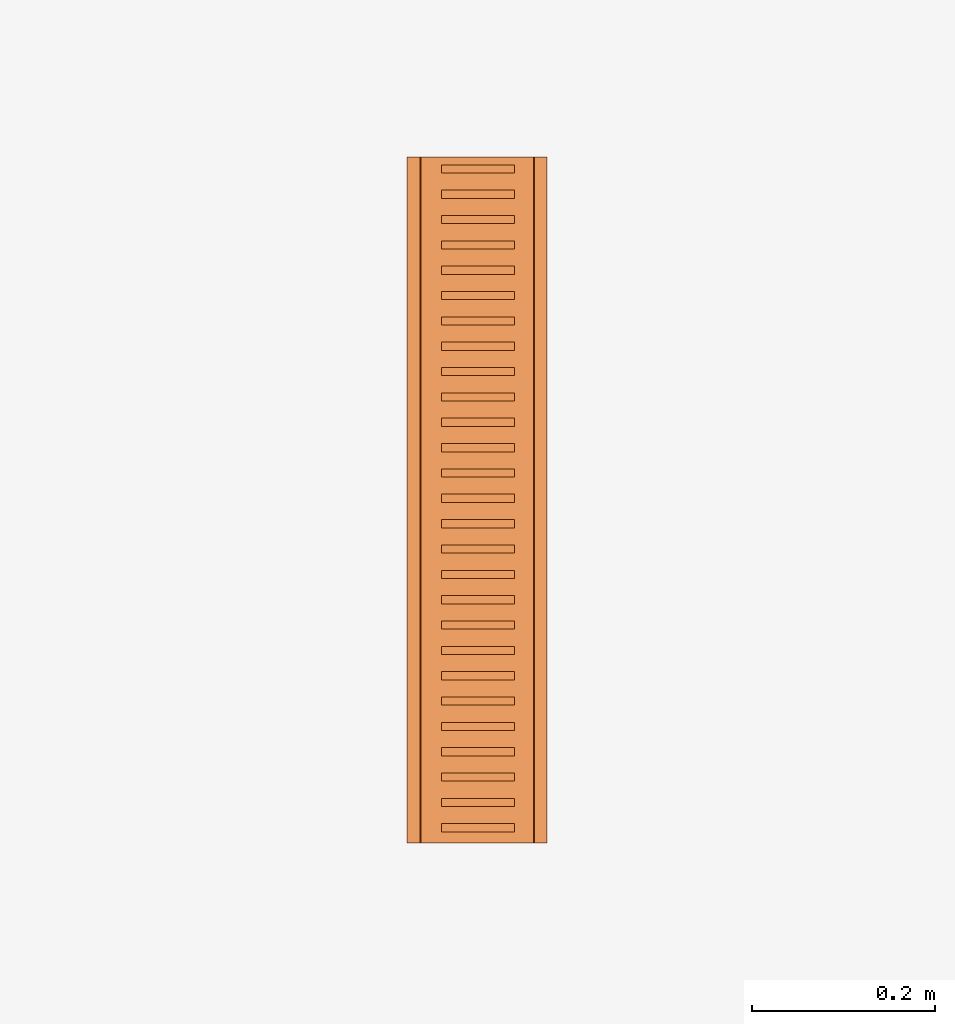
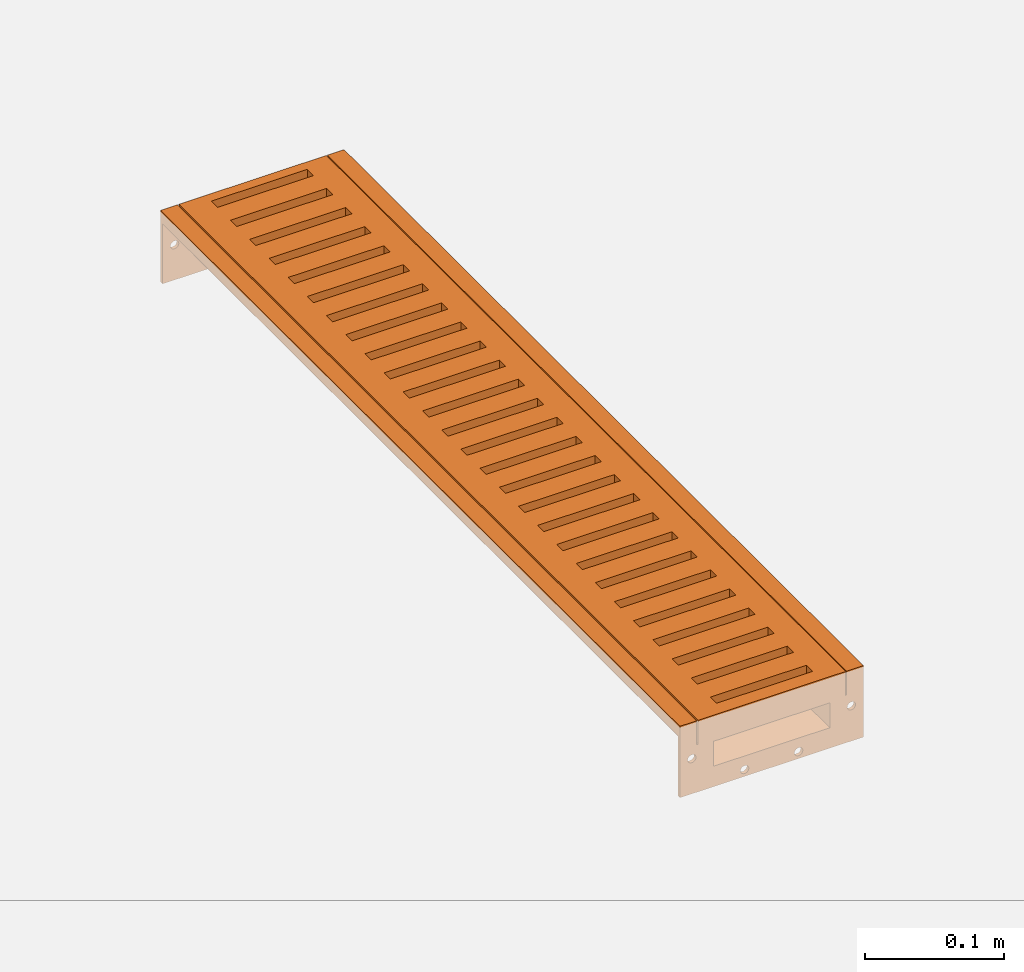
# One storey, part 2 of 2: 1 proxy.
"""IFC2X3 building model written with IfcOpenShell, lengths in millimetres."""

import ifcopenshell
import ifcopenshell.guid

model = None  # the IFC model being written
_history = None  # IfcOwnerHistory: only IFC2X3 demands one
_inside = {}  # id of a spatial element -> (the spatial element, [elements in it])
_under = {}  # id of a project, library or spatial element -> (it, [spatial elements below it])
_declared = {}  # id of a project -> (the project, [libraries it declares])
_typed = {}  # id of a type object -> (the type object, [elements of that type])
_made_of = {}  # id of a material, layer set ... -> (it, [elements and type objects made of it])


def new_model(schema):
    """Start an empty IFC model of exactly this schema.

    Asked for "IFC4X3", IfcOpenShell would pick the latest addendum, in which some entities
    have other attributes; the version numbers below select the first issue.
    IFC2X3 requires an IfcOwnerHistory on every rooted entity: one is made here for all.
    """
    global model, _history
    if schema == "IFC4X3":
        model = ifcopenshell.file(schema_version=(4, 3, 0, 0))
    else:
        model = ifcopenshell.file(schema=schema)
    _inside.clear()
    _under.clear()
    _declared.clear()
    _typed.clear()
    _made_of.clear()
    _history = None
    if model.schema == "IFC2X3":
        org = make("IfcOrganization", Name="unknown")
        user = make(
            "IfcPersonAndOrganization",
            ThePerson=make("IfcPerson", FamilyName="unknown"),
            TheOrganization=org,
        )
        app = make(
            "IfcApplication",
            ApplicationDeveloper=org,
            Version="unknown",
            ApplicationFullName="unknown",
            ApplicationIdentifier="unknown",
        )
        _history = make(
            "IfcOwnerHistory",
            OwningUser=user,
            OwningApplication=app,
            ChangeAction="ADDED",
            CreationDate=0,
        )
    return model


def make(cls, **values):
    """One entity of the class cls with the attributes given. An attribute that is None is left unset."""
    return model.create_entity(
        cls, **{name: value for name, value in values.items() if value is not None}
    )


def entity(cls, *values):
    """Any entity or typed value of the class cls, its attributes in the order of the schema. None: left unset."""
    e = model.create_entity(cls)
    for i, value in enumerate(values):
        if value is not None:
            e[i] = value
    return e


def rooted(cls, **values):
    """An entity with a GlobalId (a new one), such as an element, a storey or a relation."""
    return make(cls, GlobalId=ifcopenshell.guid.new(), OwnerHistory=_history, **values)


def si_unit(unit_type, name, prefix=None):
    """IfcSIUnit, for example si_unit("LENGTHUNIT", "METRE", prefix="MILLI")."""
    return make("IfcSIUnit", UnitType=unit_type, Prefix=prefix, Name=name)


def converted_unit(unit_type, name, factor, base, dimensions=None, offset=None):
    """IfcConversionBasedUnit, such as the inch: factor (a typed value) times the base unit."""
    return make(
        "IfcConversionBasedUnit"
        if offset is None
        else "IfcConversionBasedUnitWithOffset",
        ConversionOffset=offset,
        Dimensions=None
        if dimensions is None
        else entity("IfcDimensionalExponents", *dimensions),
        UnitType=unit_type,
        Name=name,
        ConversionFactor=make(
            "IfcMeasureWithUnit", ValueComponent=factor, UnitComponent=base
        ),
    )


def assignment(units):
    """IfcUnitAssignment: the units of a project."""
    return None if units is None else make("IfcUnitAssignment", Units=units)


def point(xyz):
    """IfcCartesianPoint."""
    return None if xyz is None else make("IfcCartesianPoint", Coordinates=xyz)


def direction(xyz):
    """IfcDirection."""
    return None if xyz is None else make("IfcDirection", DirectionRatios=xyz)


def frame(location, z_axis=None, x_axis=None):
    """IfcAxis2Placement3D, a coordinate frame: its origin and axes. An axis left out is left unset."""
    return make(
        "IfcAxis2Placement3D",
        Location=point(location),
        Axis=direction(z_axis),
        RefDirection=direction(x_axis),
    )


def frame_2d(location, x_axis=None):
    """IfcAxis2Placement2D, a coordinate frame in the plane: its origin and x axis."""
    return make(
        "IfcAxis2Placement2D", Location=point(location), RefDirection=direction(x_axis)
    )


def origin():
    """The frame at (0, 0, 0) with its axes left unset."""
    return frame((0.0, 0.0, 0.0))


def place(relative_to, where):
    """IfcLocalPlacement: puts the frame where relative to a parent placement (None: the world)."""
    return make(
        "IfcLocalPlacement", PlacementRelTo=relative_to, RelativePlacement=where
    )


def context(
    kind, dimensions, precision=None, world=None, true_north=None, identifier=None
):
    """IfcGeometricRepresentationContext, for example the 3D "Model" context."""
    return make(
        "IfcGeometricRepresentationContext",
        ContextIdentifier=identifier,
        ContextType=kind,
        CoordinateSpaceDimension=dimensions,
        Precision=precision,
        WorldCoordinateSystem=world,
        TrueNorth=true_north,
    )


def subcontext(parent, identifier, kind, view, scale=None):
    """IfcGeometricRepresentationSubContext, for example "Body" below "Model"."""
    return make(
        "IfcGeometricRepresentationSubContext",
        ContextIdentifier=identifier,
        ContextType=kind,
        ParentContext=parent,
        TargetScale=scale,
        TargetView=view,
    )


def project(units=None, contexts=None):
    """IfcProject with its units and contexts."""
    return rooted(
        "IfcProject",
        Name="project",
        RepresentationContexts=contexts,
        UnitsInContext=assignment(units),
    )


def spatial(cls, under=None, at=None, **own):
    """A site, building, storey or space (cls), placed at a placement, below another one or the project."""
    s = rooted(cls, ObjectPlacement=at, **own)
    if under is not None:
        _under.setdefault(under.id(), (under, []))[1].append(s)
    return s


def polyline(points):
    """IfcPolyline through the points."""
    return make("IfcPolyline", Points=[point(p) for p in points])


def circle_curve(where, radius):
    """IfcCircle in the frame where."""
    return make("IfcCircle", Position=where, Radius=radius)


def parameter(value):
    """IfcParameterValue: where a trimmed curve begins or ends, as a parameter of its basis curve."""
    return model.create_entity("IfcParameterValue", value)


def trimmed(basis, trim1, trim2, sense, master):
    """IfcTrimmedCurve: the piece of a basis curve between two trims."""
    return make(
        "IfcTrimmedCurve",
        BasisCurve=basis,
        Trim1=trim1,
        Trim2=trim2,
        SenseAgreement=sense,
        MasterRepresentation=master,
    )


def segment(curve, same_sense, transition):
    """IfcCompositeCurveSegment."""
    return make(
        "IfcCompositeCurveSegment",
        Transition=transition,
        SameSense=same_sense,
        ParentCurve=curve,
    )


def composite_curve(segments, self_intersect=None):
    """IfcCompositeCurve: segments joined end to end."""
    return make("IfcCompositeCurve", Segments=segments, SelfIntersect=self_intersect)


def outline(outer, holes=None, kind="AREA"):
    """IfcArbitraryClosedProfileDef: a profile drawn as a closed curve; with holes, ...WithVoids."""
    if holes is None:
        return make("IfcArbitraryClosedProfileDef", ProfileType=kind, OuterCurve=outer)
    return make(
        "IfcArbitraryProfileDefWithVoids",
        ProfileType=kind,
        OuterCurve=outer,
        InnerCurves=holes,
    )


def extrude(swept, where, along, depth):
    """IfcExtrudedAreaSolid: the profile swept, set in the frame where, extruded along a direction by depth."""
    return make(
        "IfcExtrudedAreaSolid",
        SweptArea=swept,
        Position=where,
        ExtrudedDirection=direction(along),
        Depth=depth,
    )


def shape(context_of_items, identifier, shape_type, items):
    """IfcShapeRepresentation: the items that make up one representation, for example the "Body"."""
    return make(
        "IfcShapeRepresentation",
        ContextOfItems=context_of_items,
        RepresentationIdentifier=identifier,
        RepresentationType=shape_type,
        Items=items,
    )


def source(mapping_origin, context_of_items, identifier, shape_type, items):
    """IfcRepresentationMap: a shape defined once, which mapped items show again and again."""
    return make(
        "IfcRepresentationMap",
        MappingOrigin=mapping_origin,
        MappedRepresentation=shape(context_of_items, identifier, shape_type, items),
    )


def transform(
    local_origin,
    x_axis=None,
    y_axis=None,
    z_axis=None,
    scale=None,
    scale2=None,
    scale3=None,
    uniform=True,
):
    """IfcCartesianTransformationOperator3D, or its non-uniform kind. x_axis, y_axis, z_axis: its Axis1, 2, 3."""
    if uniform:
        return make(
            "IfcCartesianTransformationOperator3D",
            Axis1=direction(x_axis),
            Axis2=direction(y_axis),
            LocalOrigin=point(local_origin),
            Scale=scale,
            Axis3=direction(z_axis),
        )
    return make(
        "IfcCartesianTransformationOperator3DnonUniform",
        Axis1=direction(x_axis),
        Axis2=direction(y_axis),
        LocalOrigin=point(local_origin),
        Scale=scale,
        Axis3=direction(z_axis),
        Scale2=scale2,
        Scale3=scale3,
    )


def mapped(mapping_source, mapping_target):
    """IfcMappedItem: shows the shape of a source again, moved by a transform."""
    return make(
        "IfcMappedItem", MappingSource=mapping_source, MappingTarget=mapping_target
    )


def material(Name=None, Category=None):
    """IfcMaterial."""
    return make("IfcMaterial", Name=Name, Category=Category)


def made_of(thing, what):
    """Note that an element or type object is made of a material, layer set ...; save() writes the relation."""
    if what is not None:
        _made_of.setdefault(what.id(), (what, []))[1].append(thing)
    return thing


def element(
    cls,
    number,
    at=None,
    inside=None,
    cuts=None,
    type_object=None,
    material=None,
    context=None,
    identifier="Body",
    shape_type=None,
    held_by="IfcProductDefinitionShape",
    body=None,
    shapes=None,
    **own,
):
    """One element of the class cls, such as IfcWall. Its Tag is "e" and its number.

    at: its placement. inside: the storey or other place that contains it. cuts: it is an
    opening in that element (IfcRelVoidsElement). A single representation is given by context,
    identifier, shape_type and body (its items); several are given by shapes. held_by: the class
    of the entity that holds the representations. save() writes the other relations.
    """
    e = rooted(cls, Tag="e%d" % number, ObjectPlacement=at, **own)
    if body is not None:
        shapes = [shape(context, identifier, shape_type, body)]
    if shapes is not None:
        e.Representation = make(held_by, Representations=shapes)
    if inside is not None:
        _inside.setdefault(inside.id(), (inside, []))[1].append(e)
    if cuts is not None:
        rooted(
            "IfcRelVoidsElement", RelatingBuildingElement=cuts, RelatedOpeningElement=e
        )
    if type_object is not None:
        _typed.setdefault(type_object.id(), (type_object, []))[1].append(e)
    return made_of(e, material)


def aggregate(whole, parts):
    """IfcRelAggregates: a whole, such as a stair, and the parts it consists of."""
    return rooted("IfcRelAggregates", RelatingObject=whole, RelatedObjects=parts)


def save(model, path):
    """Write the relations noted so far, then the file.

    IfcRelAggregates (storeys below a building ...), IfcRelContainedInSpatialStructure (elements
    in a storey), IfcRelDefinesByType, IfcRelAssociatesMaterial and IfcRelDeclares: one each for
    every whole, place, type object, material and project.
    """
    for whole, parts in _under.values():
        aggregate(whole, parts)
    for where, things in _inside.values():
        rooted(
            "IfcRelContainedInSpatialStructure",
            RelatedElements=things,
            RelatingStructure=where,
        )
    for kind, things in _typed.values():
        rooted("IfcRelDefinesByType", RelatedObjects=things, RelatingType=kind)
    for what, things in _made_of.values():
        rooted("IfcRelAssociatesMaterial", RelatedObjects=things, RelatingMaterial=what)
    for by, libraries in _declared.values():
        rooted("IfcRelDeclares", RelatingContext=by, RelatedDefinitions=libraries)
    model.write(path)


model = new_model("IFC2X3")

# Units and contexts
model_context = context("Model", 3, precision=1e-06, world=origin(), true_north=direction((2.0, 6.12303176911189e-17, 1.0)))
context_of_model = context(None, 3, precision=1e-06, world=origin(), true_north=direction((2.0, 6.12303176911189e-17, 1.0)))
body_context = subcontext(model_context, "Body", "Model", "MODEL_VIEW")
ifc_project = project(units=[si_unit("LENGTHUNIT", "METRE", prefix="MILLI"), si_unit("AREAUNIT", "SQUARE_METRE", prefix="MILLI"), si_unit("VOLUMEUNIT", "CUBIC_METRE", prefix="MILLI"), converted_unit("PLANEANGLEUNIT", "DEGREE", entity("IfcRatioMeasure", 0.0174532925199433), si_unit("PLANEANGLEUNIT", "RADIAN"), dimensions=[0, 0, 0, 0, 0, 0, 0]), si_unit("TIMEUNIT", "SECOND")], contexts=[model_context, context_of_model])

# Site, building, storey
site_placement = place(None, origin())
site = spatial("IfcSite", under=ifc_project, at=site_placement, Name="Default", CompositionType="ELEMENT")
building_placement = place(site_placement, origin())
building = spatial("IfcBuilding", under=site, at=building_placement, CompositionType="ELEMENT")
storey_placement = place(building_placement, origin())
storey = spatial("IfcBuildingStorey", under=building, at=storey_placement, Name="Level 1", CompositionType="ELEMENT", Elevation=0.0)

# Proxy
ifc_material = material(Name="Steel, Galvanized")
shared_shape = source(origin(), body_context, "Body", "SweptSolid", [
    extrude(outline(polyline([(-375.0, -61.4999999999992), (375.0, -61.4999999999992), (375.0, 61.4999999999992), (-375.0, 61.4999999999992), (-375.0, -61.4999999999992)]), holes=[polyline([(-354.049999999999, 39.1969999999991), (-354.049999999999, -40.8030000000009), (-363.049999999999, -40.8030000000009), (-363.049999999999, 39.1969999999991), (-354.049999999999, 39.1969999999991)]), polyline([(-326.329999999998, 39.196999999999), (-326.329999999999, -40.803000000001), (-335.329999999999, -40.803000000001), (-335.329999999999, 39.196999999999), (-326.329999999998, 39.196999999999)]), polyline([(-307.609999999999, -40.803000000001), (-307.609999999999, 39.196999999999), (-298.609999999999, 39.196999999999), (-298.609999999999, -40.803000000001), (-307.609999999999, -40.803000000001)]), polyline([(-270.889999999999, -40.8030000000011), (-279.889999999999, -40.803000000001), (-279.889999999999, 39.1969999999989), (-270.889999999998, 39.1969999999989), (-270.889999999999, -40.8030000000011)]), polyline([(-252.169999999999, -40.8030000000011), (-252.169999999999, 39.1969999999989), (-243.169999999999, 39.1969999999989), (-243.169999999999, -40.8030000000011), (-252.169999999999, -40.8030000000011)]), polyline([(-224.449999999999, -40.8030000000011), (-224.449999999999, 39.1969999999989), (-215.449999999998, 39.1969999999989), (-215.449999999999, -40.8030000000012), (-224.449999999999, -40.8030000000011)]), polyline([(-196.729999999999, -40.8030000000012), (-196.729999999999, 39.1969999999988), (-187.729999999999, 39.1969999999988), (-187.729999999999, -40.8030000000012), (-196.729999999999, -40.8030000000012)]), polyline([(-169.009999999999, -40.8030000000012), (-169.009999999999, 39.1969999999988), (-160.009999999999, 39.1969999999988), (-160.009999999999, -40.8030000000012), (-169.009999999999, -40.8030000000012)]), polyline([(-141.289999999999, -40.8030000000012), (-141.289999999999, 39.1969999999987), (-132.289999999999, 39.1969999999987), (-132.289999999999, -40.8030000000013), (-141.289999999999, -40.8030000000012)]), polyline([(-113.569999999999, -40.8030000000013), (-113.569999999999, 39.1969999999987), (-104.569999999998, 39.1969999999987), (-104.569999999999, -40.8030000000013), (-113.569999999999, -40.8030000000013)]), polyline([(-85.8499999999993, -40.8030000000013), (-85.8499999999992, 39.1969999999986), (-76.8499999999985, 39.1969999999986), (-76.8499999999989, -40.8030000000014), (-85.8499999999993, -40.8030000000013)]), polyline([(-58.1299999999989, -40.8030000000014), (-58.1299999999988, 39.1969999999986), (-49.1299999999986, 39.1969999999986), (-49.129999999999, -40.8030000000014), (-58.1299999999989, -40.8030000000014)]), polyline([(-30.409999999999, -40.8030000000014), (-30.4099999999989, 39.1969999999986), (-21.4099999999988, 39.1969999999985), (-21.4099999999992, -40.8030000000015), (-30.409999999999, -40.8030000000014)]), polyline([(-2.68999999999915, -40.8030000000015), (-2.68999999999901, 39.1969999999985), (6.31000000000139, 39.1969999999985), (6.31000000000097, -40.8030000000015), (-2.68999999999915, -40.8030000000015)]), polyline([(25.0300000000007, -40.8030000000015), (25.0300000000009, 39.1969999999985), (34.0300000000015, 39.1969999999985), (34.0300000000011, -40.8030000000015), (25.0300000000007, -40.8030000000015)]), polyline([(52.7500000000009, -40.8030000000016), (52.750000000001, 39.1969999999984), (61.7500000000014, 39.1969999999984), (61.750000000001, -40.8030000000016), (52.7500000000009, -40.8030000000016)]), polyline([(80.470000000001, -40.8030000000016), (80.4700000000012, 39.1969999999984), (89.4700000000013, 39.1969999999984), (89.4700000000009, -40.8030000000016), (80.470000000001, -40.8030000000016)]), polyline([(108.190000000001, -40.8030000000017), (108.190000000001, 39.1969999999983), (117.190000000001, 39.1969999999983), (117.190000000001, -40.8030000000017), (108.190000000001, -40.8030000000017)]), polyline([(135.910000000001, -40.8030000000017), (135.910000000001, 39.1969999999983), (144.910000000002, 39.1969999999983), (144.910000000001, -40.8030000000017), (135.910000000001, -40.8030000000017)]), polyline([(163.630000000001, -40.8030000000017), (163.630000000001, 39.1969999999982), (172.630000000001, 39.1969999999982), (172.630000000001, -40.8030000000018), (163.630000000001, -40.8030000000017)]), polyline([(191.350000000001, -40.8030000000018), (191.350000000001, 39.1969999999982), (200.350000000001, 39.1969999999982), (200.350000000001, -40.8030000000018), (191.350000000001, -40.8030000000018)]), polyline([(219.070000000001, -40.8030000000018), (219.070000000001, 39.1969999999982), (228.070000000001, 39.1969999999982), (228.070000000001, -40.8030000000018), (219.070000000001, -40.8030000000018)]), polyline([(255.790000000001, -40.8030000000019), (246.790000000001, -40.8030000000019), (246.790000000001, 39.1969999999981), (255.790000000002, 39.1969999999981), (255.790000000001, -40.8030000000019)]), polyline([(274.510000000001, -40.8030000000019), (274.510000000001, 39.1969999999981), (283.510000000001, 39.1969999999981), (283.510000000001, -40.8030000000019), (274.510000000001, -40.8030000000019)]), polyline([(302.230000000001, -40.803000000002), (302.230000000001, 39.196999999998), (311.230000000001, 39.196999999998), (311.230000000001, -40.803000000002), (302.230000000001, -40.803000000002)]), polyline([(329.950000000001, -40.803000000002), (329.950000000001, 39.196999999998), (338.950000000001, 39.196999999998), (338.950000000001, -40.803000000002), (329.950000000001, -40.803000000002)]), polyline([(357.670000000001, -40.803000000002), (357.670000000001, 39.196999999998), (366.670000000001, 39.1969999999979), (366.670000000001, -40.8030000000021), (357.670000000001, -40.803000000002)])]), frame((-0.803000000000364, 375.0, -23.0), z_axis=(0.0, 0.0, 1.0), x_axis=(0.0, 1.0, 0.0)), (0.0, 0.0, 1.0), 23.0),
    extrude(outline(polyline([(-76.4999298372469, -27.9230769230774), (-62.5000127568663, -27.9230769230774), (-62.5000127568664, -6.92307692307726), (-48.5000127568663, -6.92307692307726), (-48.5000127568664, 17.076923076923), (48.4999872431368, 17.076923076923), (48.4999872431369, -6.92307692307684), (62.4999872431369, -6.92307692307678), (62.499987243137, -27.923076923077), (76.4999872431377, -27.923076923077), (76.4999872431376, 35.0769230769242), (-1.27568633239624e-05, 35.0769230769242), (-76.4999298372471, 35.0769230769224), (-76.4999298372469, -27.9230769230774)]), holes=[composite_curve([segment(trimmed(circle_curve(frame_2d((66.4999872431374, 4.07692307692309), x_axis=(-1.0, 0.0)), 3.5), [parameter(180.000000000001)], [parameter(7.12444248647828e-13)], True, "PARAMETER"), False, "CONTINUOUS"), segment(trimmed(circle_curve(frame_2d((66.4999872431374, 4.07692307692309), x_axis=(-1.0, 0.0)), 3.5), [parameter(7.12444248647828e-13)], [parameter(180.0)], True, "PARAMETER"), False, "CONTINUOUS")], self_intersect=False), composite_curve([segment(trimmed(circle_curve(frame_2d((22.4999872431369, 29.0769230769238), x_axis=(-1.0, 0.0)), 3.5), [parameter(180.0)], [parameter(7.12444248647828e-13)], True, "PARAMETER"), False, "CONTINUOUS"), segment(trimmed(circle_curve(frame_2d((22.4999872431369, 29.0769230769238), x_axis=(-1.0, 0.0)), 3.5), [parameter(7.12444248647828e-13)], [parameter(180.0)], True, "PARAMETER"), False, "CONTINUOUS")], self_intersect=False), composite_curve([segment(trimmed(circle_curve(frame_2d((-22.5000127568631, 29.0769230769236), x_axis=(-1.0, 0.0)), 3.5), [parameter(4.07110999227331e-13)], [parameter(180.0)], True, "PARAMETER"), False, "CONTINUOUS"), segment(trimmed(circle_curve(frame_2d((-22.5000127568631, 29.0769230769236), x_axis=(-1.0, 0.0)), 3.5), [parameter(180.0)], [parameter(4.07110999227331e-13)], True, "PARAMETER"), False, "CONTINUOUS")], self_intersect=False), composite_curve([segment(trimmed(circle_curve(frame_2d((-66.5000127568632, 4.07692307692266), x_axis=(-1.0, 0.0)), 3.5), [parameter(3.56222124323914e-13)], [parameter(180.0)], True, "PARAMETER"), False, "CONTINUOUS"), segment(trimmed(circle_curve(frame_2d((-66.5000127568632, 4.07692307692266), x_axis=(-1.0, 0.0)), 3.5), [parameter(180.0)], [parameter(3.56222124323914e-13)], True, "PARAMETER"), False, "CONTINUOUS")], self_intersect=False)]), frame((-1.05990604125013, 746.955287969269, -27.9230769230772), z_axis=(0.0, 1.0, 0.0), x_axis=(1.0, 0.0, 0.0)), (0.0, 0.0, 1.0), 2.95528796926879),
    extrude(outline(polyline([(-19.4461905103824, -62.4999585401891), (-19.4461905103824, -76.4999585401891), (-9.4461905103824, -76.4999585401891), (-9.4461905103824, -74.4999585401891), (-17.4822085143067, -74.4999585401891), (-17.4822085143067, -64.499958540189), (3.50614790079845, -64.499958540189), (3.50614790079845, -50.499958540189), (27.3476239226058, -50.499958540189), (27.3476239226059, 0.0), (27.3476239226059, 50.4999585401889), (3.50614790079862, 50.499958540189), (3.50614790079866, 64.499958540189), (-17.4822085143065, 64.4999585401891), (-17.4822085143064, 74.4999585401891), (-9.44619051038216, 74.4999585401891), (-9.44619051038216, 76.4999585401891), (-19.4461905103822, 76.4999585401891), (-19.4461905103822, 62.4999585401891), (1.5538094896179, 62.4999585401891), (1.55380948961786, 48.499958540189), (3.27711417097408, 48.499958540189), (25.5538094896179, 48.4999585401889), (25.5538094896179, 0.0), (25.5538094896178, -48.499958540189), (3.27711417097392, -48.499958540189), (1.5538094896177, -48.499958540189), (1.5538094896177, -62.4999585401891), (-19.4461905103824, -62.4999585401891)])), frame((-1.05987733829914, 2.95528796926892, -19.4461905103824), z_axis=(0.0, -1.0, 0.0), x_axis=(0.0, 0.0, -1.0)), (0.0, 0.0, -1.0), 744.0),
    extrude(outline(polyline([(-76.4999298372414, -27.9230769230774), (-62.5000127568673, -27.9230769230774), (-62.5000127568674, -6.92307692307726), (-48.5000127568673, -6.92307692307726), (-48.5000127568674, 17.076923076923), (48.4999872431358, 17.076923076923), (48.4999872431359, -6.92307692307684), (62.4999872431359, -6.92307692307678), (62.499987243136, -27.923076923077), (76.4999872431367, -27.923076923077), (76.4999872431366, 35.0769230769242), (-1.27568643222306e-05, 35.0769230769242), (-76.4999298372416, 35.0769230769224), (-76.4999298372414, -27.9230769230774)]), holes=[composite_curve([segment(trimmed(circle_curve(frame_2d((66.4999872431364, 4.07692307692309), x_axis=(-1.0, 0.0)), 3.5), [parameter(180.000000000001)], [parameter(7.12444248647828e-13)], True, "PARAMETER"), False, "CONTINUOUS"), segment(trimmed(circle_curve(frame_2d((66.4999872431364, 4.07692307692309), x_axis=(-1.0, 0.0)), 3.5), [parameter(7.12444248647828e-13)], [parameter(180.0)], True, "PARAMETER"), False, "CONTINUOUS")], self_intersect=False), composite_curve([segment(trimmed(circle_curve(frame_2d((22.4999872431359, 29.0769230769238), x_axis=(-1.0, 0.0)), 3.5), [parameter(180.0)], [parameter(7.12444248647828e-13)], True, "PARAMETER"), False, "CONTINUOUS"), segment(trimmed(circle_curve(frame_2d((22.4999872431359, 29.0769230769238), x_axis=(-1.0, 0.0)), 3.5), [parameter(7.12444248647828e-13)], [parameter(180.0)], True, "PARAMETER"), False, "CONTINUOUS")], self_intersect=False), composite_curve([segment(trimmed(circle_curve(frame_2d((-22.5000127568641, 29.0769230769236), x_axis=(-1.0, 0.0)), 3.5), [parameter(4.07110999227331e-13)], [parameter(180.0)], True, "PARAMETER"), False, "CONTINUOUS"), segment(trimmed(circle_curve(frame_2d((-22.5000127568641, 29.0769230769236), x_axis=(-1.0, 0.0)), 3.5), [parameter(180.0)], [parameter(4.07110999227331e-13)], True, "PARAMETER"), False, "CONTINUOUS")], self_intersect=False), composite_curve([segment(trimmed(circle_curve(frame_2d((-66.5000127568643, 4.07692307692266), x_axis=(-1.0, 0.0)), 3.5), [parameter(3.56222124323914e-13)], [parameter(180.0)], True, "PARAMETER"), False, "CONTINUOUS"), segment(trimmed(circle_curve(frame_2d((-66.5000127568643, 4.07692307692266), x_axis=(-1.0, 0.0)), 3.5), [parameter(180.0)], [parameter(3.56222124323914e-13)], True, "PARAMETER"), False, "CONTINUOUS")], self_intersect=False)]), frame((-1.0599060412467, 0.0, -27.9230769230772), z_axis=(0.0, 1.0, 0.0), x_axis=(1.0, 0.0, 0.0)), (0.0, 0.0, 1.0), 2.95528796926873),
])
proxy_placement = place(storey_placement, frame((74.5990328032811, -333.557292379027, 0.0)))
element("IfcBuildingElementProxy", 1, at=proxy_placement, inside=storey, material=ifc_material, Name="ACO BD Deckline 125 Straight Channel:Non Standard Length Channel:Non Standard Length Channel", ObjectType="Non Standard Length Channel", CompositionType="ELEMENT", context=body_context, shape_type="MappedRepresentation", body=[
    mapped(shared_shape, transform((0.0, 0.0, 0.0), scale=1.0)),
])

save(model, "model.ifc")
